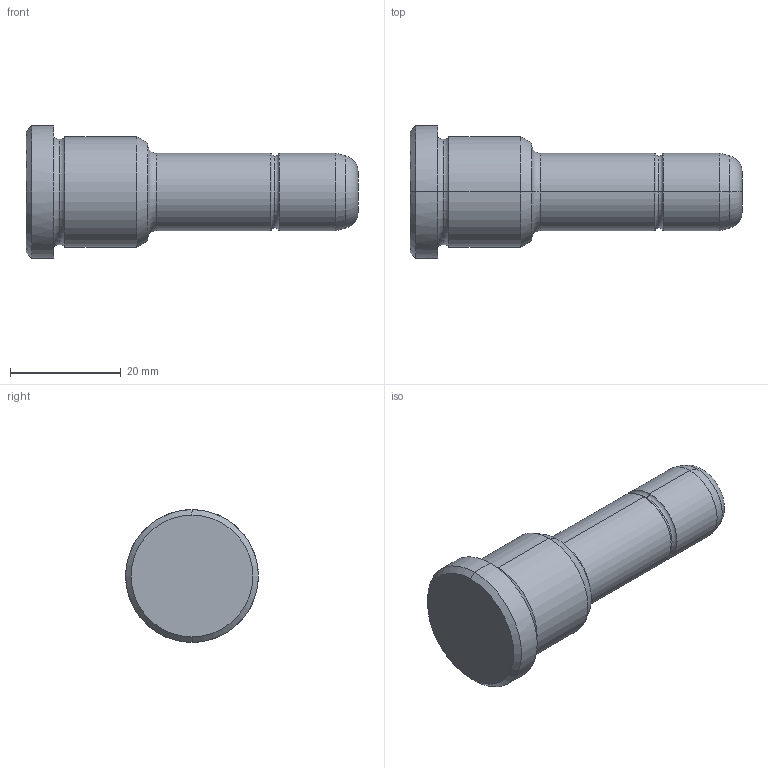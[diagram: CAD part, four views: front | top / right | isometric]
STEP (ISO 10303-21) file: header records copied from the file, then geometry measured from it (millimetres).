
FILE_DESCRIPTION(('CATIA V5 STEP Exchange'),'2;1');
FILE_NAME('C:\Users\Utente\Desktop\IO LAVORO\3D X SITO CF\X SITO\PLASTICA\351\351-14X22X60.stp','2021-08-18T10:00:24+00:00',('none'),('none'),'CATIA Version 5 Release 20 GA (IN-10)','CATIA V5 STEP AP203','none');
FILE_SCHEMA(('CONFIG_CONTROL_DESIGN'));
Length unit declared in the file: millimetre
Products named in the file (1): 351-14X22X60
Bounding box: 60 x 24 x 24 mm (x, y, z)
Volume: 13175.9 mm3; surface area: 3842.8 mm2
Topology: 1 solids, 1 shells, 30 faces, 86 edges, 60 vertices
Faces by surface type: torus 12, cylinder 8, cone 6, plane 4
Entity records: 1112 total; most frequent: CARTESIAN_POINT 289, ORIENTED_EDGE 172, DIRECTION 138, AXIS2_PLACEMENT_3D 95, EDGE_CURVE 86, CIRCLE 64, VERTEX_POINT 60, EDGE_LOOP 32
